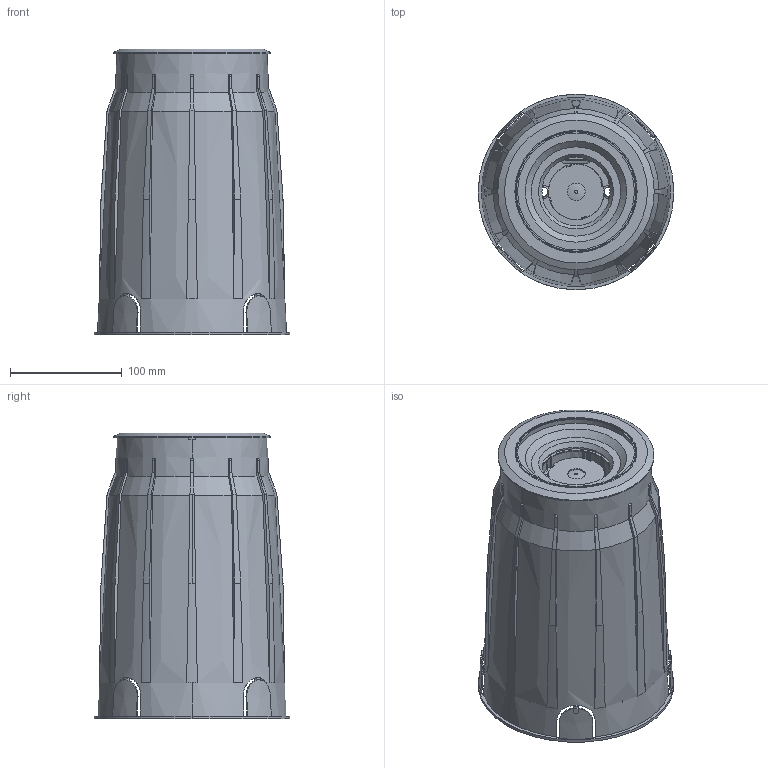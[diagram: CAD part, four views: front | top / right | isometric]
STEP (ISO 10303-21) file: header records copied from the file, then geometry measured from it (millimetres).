
FILE_DESCRIPTION (( 'STEP AP214' ), '1' );
FILE_NAME ('a_TERRA MINI COB SKIN assy.STEP', '2022-09-16T07:33:07', ( '' ), ( '' ), 'SwSTEP 2.0', 'SolidWorks 2022', '' );
FILE_SCHEMA (( 'AUTOMOTIVE_DESIGN' ));
Length unit declared in the file: millimetre
Products named in the file (1): a_TERRA MINI COB SKIN assy
Bounding box: 175 x 175 x 255.7 mm (x, y, z)
Surface area: 370344.4 mm2 (no closed solid volume)
Topology: 0 solids, 20 shells, 408 faces, 1607 edges, 1209 vertices
Faces by surface type: plane 150, cone 123, bspline 73, cylinder 56, torus 6
Full cylindrical faces by diameter (mm): 7 x1, 13 x1, 14 x1, 15.794 x1, 22.3 x1, 60.966 x1, 65.547 x1, 106.881 x1, 107.881 x1, 108.364 x1, 140 x1
Entity records: 24781 total; most frequent: CARTESIAN_POINT 8531, ORIENTED_EDGE 2499, DIRECTION 1996, EDGE_CURVE 1579, VERTEX_POINT 1201, AXIS2_PLACEMENT_3D 716, B_SPLINE_CURVE_WITH_KNOTS 566, LINE 564
